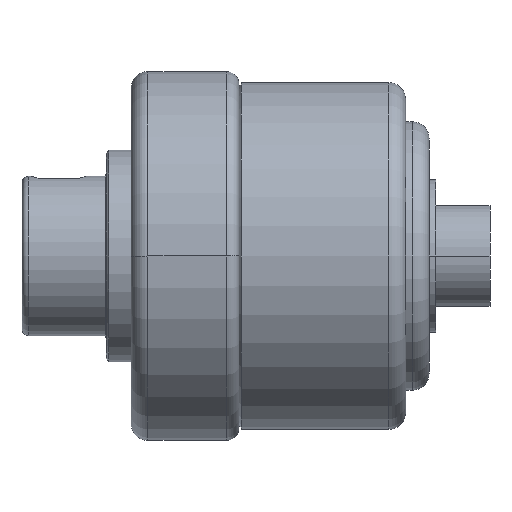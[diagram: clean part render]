
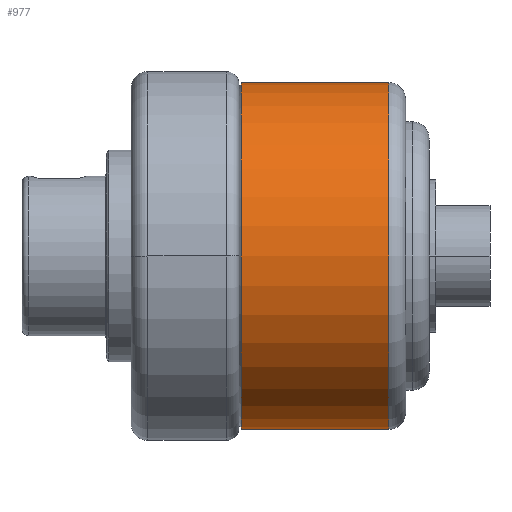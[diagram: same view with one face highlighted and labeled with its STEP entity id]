
A CAD part, left-side view. The second image highlights one B-rep face of the part: STEP entity #977.
In plain terms, the highlighted cylindrical face has radius 65.659 mm (diameter 131.318 mm), a partial arc.
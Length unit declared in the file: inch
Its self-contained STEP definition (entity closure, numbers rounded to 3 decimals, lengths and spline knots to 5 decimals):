
#550 = VERTEX_POINT ( 'NONE', #2147 ) ;
#551 = VERTEX_POINT ( 'NONE', #2146 ) ;
#977 = ADVANCED_FACE ( 'NONE', ( #2380 ), #2384, .T. ) ;
#1026 = EDGE_CURVE ( 'NONE', #3977, #550, #1454, .T. ) ;
#1027 = EDGE_CURVE ( 'NONE', #4789, #551, #1455, .T. ) ;
#1255 = AXIS2_PLACEMENT_3D ( 'NONE', #2653, #2654, #2655 ) ;
#1256 = AXIS2_PLACEMENT_3D ( 'NONE', #2656, #2657, #2658 ) ;
#1454 = LINE ( 'NONE', #3422, #1456 ) ;
#1455 = LINE ( 'NONE', #3427, #1458 ) ;
#1456 = VECTOR ( 'NONE', #3417, 39.37008 ) ;
#1458 = VECTOR ( 'NONE', #3428, 39.37008 ) ;
#2063 = CARTESIAN_POINT ( 'NONE',  ( 0., 2.8029, -2.585 ) ) ;
#2146 = CARTESIAN_POINT ( 'NONE',  ( 0., 0.6, -2.585 ) ) ;
#2147 = CARTESIAN_POINT ( 'NONE',  ( 0., 0.6, 2.585 ) ) ;
#2215 = CARTESIAN_POINT ( 'NONE',  ( 0., -0.52918, 0. ) ) ;
#2380 = FACE_OUTER_BOUND ( 'NONE', #4244, .T. ) ;
#2384 = CYLINDRICAL_SURFACE ( 'NONE', #4751, 2.585 ) ;
#2653 = CARTESIAN_POINT ( 'NONE',  ( 0., 2.8029, 0. ) ) ;
#2654 = DIRECTION ( 'NONE',  ( 0., -1., 0. ) ) ;
#2655 = DIRECTION ( 'NONE',  ( 0., 0., -1. ) ) ;
#2656 = CARTESIAN_POINT ( 'NONE',  ( 0., 0.6, 0. ) ) ;
#2657 = DIRECTION ( 'NONE',  ( 0., 1., 0. ) ) ;
#2658 = DIRECTION ( 'NONE',  ( 0., 0., 1. ) ) ;
#2783 = EDGE_CURVE ( 'NONE', #3977, #4789, #3362, .T. ) ;
#2784 = EDGE_CURVE ( 'NONE', #551, #550, #3367, .T. ) ;
#3247 = CARTESIAN_POINT ( 'NONE',  ( 0., 2.8029, 2.585 ) ) ;
#3362 = CIRCLE ( 'NONE', #1255, 2.585 ) ;
#3367 = CIRCLE ( 'NONE', #1256, 2.585 ) ;
#3417 = DIRECTION ( 'NONE',  ( 0., -1., 0. ) ) ;
#3422 = CARTESIAN_POINT ( 'NONE',  ( 0., -0.52918, 2.585 ) ) ;
#3427 = CARTESIAN_POINT ( 'NONE',  ( 0., -0.52918, -2.585 ) ) ;
#3428 = DIRECTION ( 'NONE',  ( 0., -1., 0. ) ) ;
#3977 = VERTEX_POINT ( 'NONE', #3247 ) ;
#4244 = EDGE_LOOP ( 'NONE', ( #4619, #4620, #4621, #4622 ) ) ;
#4497 = DIRECTION ( 'NONE',  ( 0., -1., 0. ) ) ;
#4498 = DIRECTION ( 'NONE',  ( 0., 0., -1. ) ) ;
#4619 = ORIENTED_EDGE ( 'NONE', *, *, #1026, .F. ) ;
#4620 = ORIENTED_EDGE ( 'NONE', *, *, #2783, .T. ) ;
#4621 = ORIENTED_EDGE ( 'NONE', *, *, #1027, .T. ) ;
#4622 = ORIENTED_EDGE ( 'NONE', *, *, #2784, .T. ) ;
#4751 = AXIS2_PLACEMENT_3D ( 'NONE', #2215, #4497, #4498 ) ;
#4789 = VERTEX_POINT ( 'NONE', #2063 ) ;
